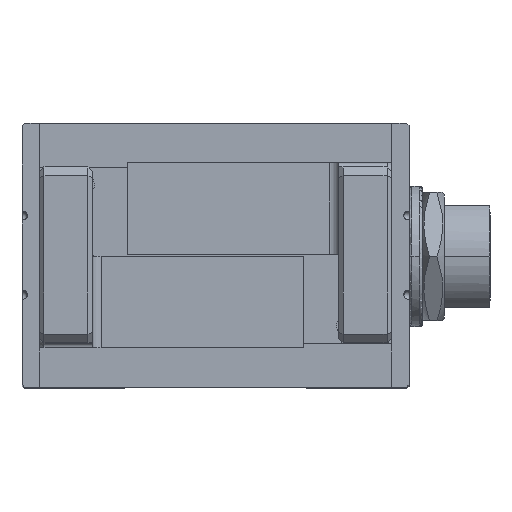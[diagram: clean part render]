
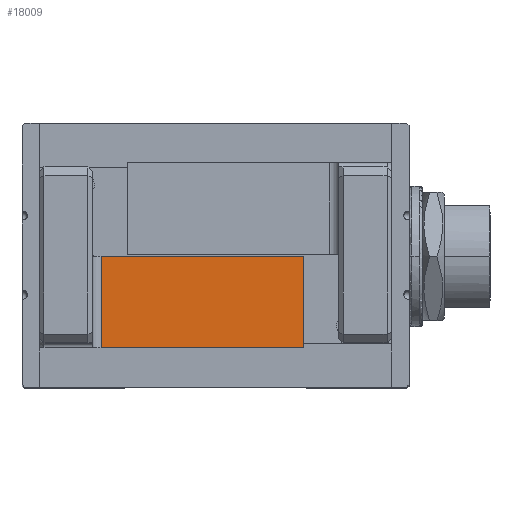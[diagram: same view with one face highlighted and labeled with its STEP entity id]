
A CAD part, top view. The second image highlights one B-rep face of the part: STEP entity #18009.
In plain terms, the highlighted planar face has unit normal (0, 0, 1).
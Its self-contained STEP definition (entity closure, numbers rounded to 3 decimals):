
#17755=CARTESIAN_POINT('Vertex',(10.,-0.1,110.927)) ;
#17758=CARTESIAN_POINT('Line Origine',(10.,-5.3,110.927)) ;
#17762=CARTESIAN_POINT('Vertex',(10.,-10.5,110.927)) ;
#17951=CARTESIAN_POINT('Line Origine',(-1.5,-0.1,110.927)) ;
#17955=CARTESIAN_POINT('Vertex',(-13.,-0.1,110.927)) ;
#17986=CARTESIAN_POINT('Axis2P3D Location',(10.,-10.5,110.927)) ;
#17991=CARTESIAN_POINT('Line Origine',(-13.,-5.3,110.927)) ;
#17995=CARTESIAN_POINT('Vertex',(-13.,-10.5,110.927)) ;
#17998=CARTESIAN_POINT('Line Origine',(-1.5,-10.5,110.927)) ;
#17759=DIRECTION('Vector Direction',(0.,1.,0.)) ;
#17952=DIRECTION('Vector Direction',(-1.,0.,0.)) ;
#17987=DIRECTION('Axis2P3D Direction',(0.,0.,-1.)) ;
#17988=DIRECTION('Axis2P3D XDirection',(-1.,0.,0.)) ;
#17992=DIRECTION('Vector Direction',(0.,1.,0.)) ;
#17999=DIRECTION('Vector Direction',(-1.,0.,0.)) ;
#17989=AXIS2_PLACEMENT_3D('Plane Axis2P3D',#17986,#17987,#17988) ;
#18004=ORIENTED_EDGE('',*,*,#17997,.T.) ;
#18005=ORIENTED_EDGE('',*,*,#18002,.T.) ;
#18006=ORIENTED_EDGE('',*,*,#17764,.T.) ;
#18007=ORIENTED_EDGE('',*,*,#17957,.F.) ;
#17760=VECTOR('Line Direction',#17759,1.) ;
#17953=VECTOR('Line Direction',#17952,1.) ;
#17993=VECTOR('Line Direction',#17992,1.) ;
#18000=VECTOR('Line Direction',#17999,1.) ;
#18009=ADVANCED_FACE('\X2\4EA754C1\X0\1.1\\\X2\5BFC8F687EC44EF6\X0\.1\\\X2\624B6307\X0\.2\\\X2\96F64EF651E04F554F53\X0\',(#18008),#17990,.F.) ;
#17764=EDGE_CURVE('',#17763,#17756,#17761,.T.) ;
#17957=EDGE_CURVE('',#17956,#17756,#17954,.F.) ;
#17997=EDGE_CURVE('',#17956,#17996,#17994,.F.) ;
#18002=EDGE_CURVE('',#17996,#17763,#18001,.F.) ;
#18003=EDGE_LOOP('',(#18004,#18005,#18006,#18007)) ;
#18008=FACE_OUTER_BOUND('',#18003,.T.) ;
#17761=LINE('Line',#17758,#17760) ;
#17954=LINE('Line',#17951,#17953) ;
#17994=LINE('Line',#17991,#17993) ;
#18001=LINE('Line',#17998,#18000) ;
#17990=PLANE('Plane',#17989) ;
#17756=VERTEX_POINT('',#17755) ;
#17763=VERTEX_POINT('',#17762) ;
#17956=VERTEX_POINT('',#17955) ;
#17996=VERTEX_POINT('',#17995) ;
